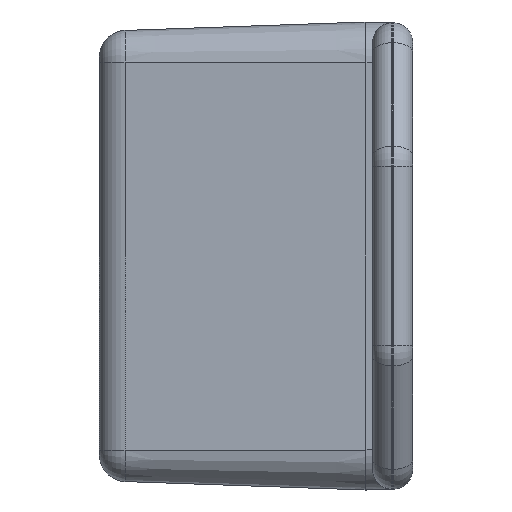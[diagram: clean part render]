
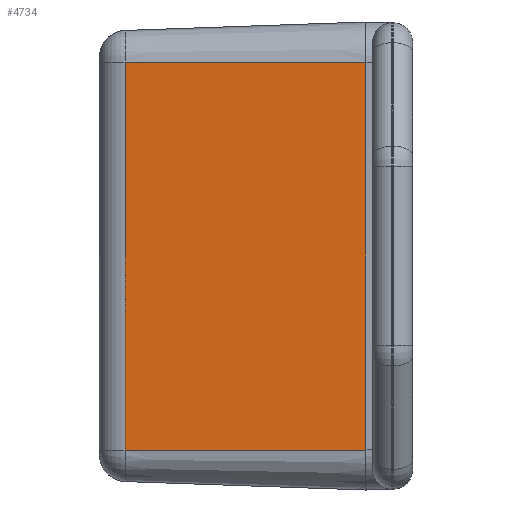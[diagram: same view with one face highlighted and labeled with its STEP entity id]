
A CAD part, left-side view. The second image highlights one B-rep face of the part: STEP entity #4734.
In plain terms, the highlighted planar face has unit normal (-0.999, 0.035, 0).
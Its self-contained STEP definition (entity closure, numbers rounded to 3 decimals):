
#365 = ORIENTED_EDGE ( 'NONE', *, *, #1107, .T. ) ;
#413 = FACE_OUTER_BOUND ( 'NONE', #2847, .T. ) ;
#808 = CARTESIAN_POINT ( 'NONE',  ( -35., 0., 14.55 ) ) ;
#823 = CARTESIAN_POINT ( 'NONE',  ( -35., 0., 14.55 ) ) ;
#895 = DIRECTION ( 'NONE',  ( -0.035, -0.999, 0. ) ) ;
#1107 = EDGE_CURVE ( 'NONE', #3682, #5108, #1379, .T. ) ;
#1379 = LINE ( 'NONE', #1817, #1449 ) ;
#1408 = ORIENTED_EDGE ( 'NONE', *, *, #4808, .F. ) ;
#1449 = VECTOR ( 'NONE', #895, 1000. ) ;
#1729 = LINE ( 'NONE', #3377, #3527 ) ;
#1778 = LINE ( 'NONE', #3630, #3252 ) ;
#1817 = CARTESIAN_POINT ( 'NONE',  ( -35., 0., -14.55 ) ) ;
#2208 = AXIS2_PLACEMENT_3D ( 'NONE', #3747, #4304, #6282 ) ;
#2671 = DIRECTION ( 'NONE',  ( 0., 0., -1. ) ) ;
#2799 = VERTEX_POINT ( 'NONE', #823 ) ;
#2847 = EDGE_LOOP ( 'NONE', ( #1408, #4875, #365, #4350 ) ) ;
#3041 = VECTOR ( 'NONE', #4771, 1000. ) ;
#3096 = CARTESIAN_POINT ( 'NONE',  ( -34.369, 18.07, -14.55 ) ) ;
#3252 = VECTOR ( 'NONE', #2671, 1000. ) ;
#3377 = CARTESIAN_POINT ( 'NONE',  ( -35., 0., 14.55 ) ) ;
#3527 = VECTOR ( 'NONE', #3863, 1000. ) ;
#3539 = CARTESIAN_POINT ( 'NONE',  ( -34.369, 18.07, 14.55 ) ) ;
#3630 = CARTESIAN_POINT ( 'NONE',  ( -34.369, 18.07, -14.55 ) ) ;
#3682 = VERTEX_POINT ( 'NONE', #3096 ) ;
#3747 = CARTESIAN_POINT ( 'NONE',  ( -35., 0., 14.55 ) ) ;
#3770 = EDGE_CURVE ( 'NONE', #5655, #3682, #1778, .T. ) ;
#3863 = DIRECTION ( 'NONE',  ( -0.035, -0.999, 0. ) ) ;
#4304 = DIRECTION ( 'NONE',  ( -0.999, 0.035, 0. ) ) ;
#4350 = ORIENTED_EDGE ( 'NONE', *, *, #5320, .T. ) ;
#4398 = LINE ( 'NONE', #808, #3041 ) ;
#4591 = CARTESIAN_POINT ( 'NONE',  ( -35., 0., -14.55 ) ) ;
#4734 = ADVANCED_FACE ( 'NONE', ( #413 ), #4849, .T. ) ;
#4771 = DIRECTION ( 'NONE',  ( 0., 0., 1. ) ) ;
#4808 = EDGE_CURVE ( 'NONE', #5655, #2799, #1729, .T. ) ;
#4849 = PLANE ( 'NONE',  #2208 ) ;
#4875 = ORIENTED_EDGE ( 'NONE', *, *, #3770, .T. ) ;
#5108 = VERTEX_POINT ( 'NONE', #4591 ) ;
#5320 = EDGE_CURVE ( 'NONE', #5108, #2799, #4398, .T. ) ;
#5655 = VERTEX_POINT ( 'NONE', #3539 ) ;
#6282 = DIRECTION ( 'NONE',  ( -0.035, -0.999, 0. ) ) ;
